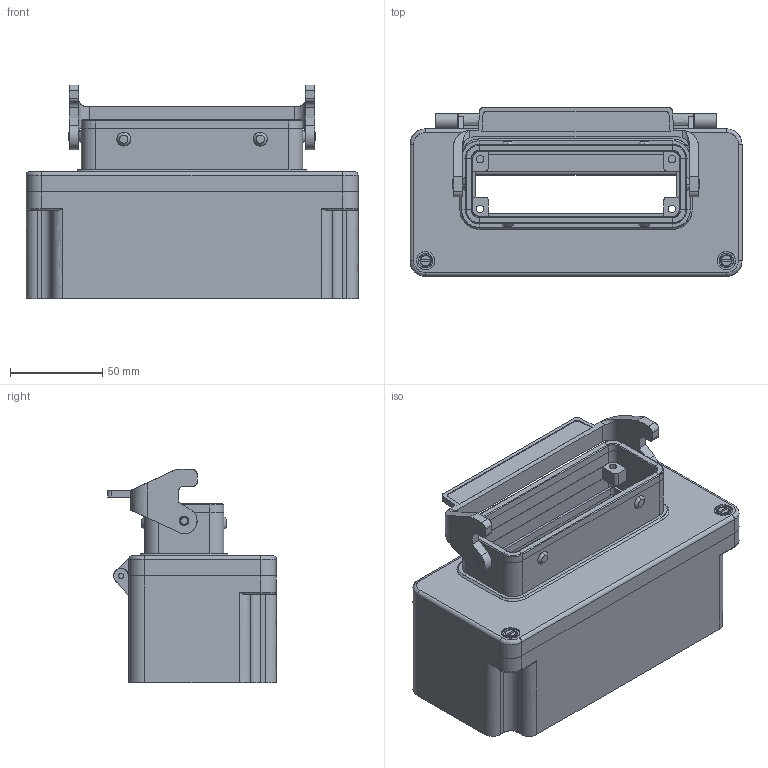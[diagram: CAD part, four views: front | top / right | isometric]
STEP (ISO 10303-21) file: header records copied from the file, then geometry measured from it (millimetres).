
FILE_DESCRIPTION( ( 'STEP AP214' ), '1' );
FILE_NAME( 'C:/Dokumente und Einstellungen/Administrator/Desktop/47 Kabelboxen/G2/gr_2_24e-b/gr_2_24e-b.stp', '2006-08-28T08:25:34', ( ' ' ), ( ' ' ), 'XStep 1.0', 'VISICAD', ' ' );
FILE_SCHEMA( ( 'automotive_design' ) );
Length unit declared in the file: millimetre
Products named in the file (861): 1; 2; 3; 4; 5; 6; 7; 8; 9; 10; 11; 12; 13; 14; 15; 16; 17; 18; 19; 20; 21; 22; 23; 24; 25; 26; 27; 28; 29; 30; 31; 32; 33; 34; 35; 36; 37; 38; 39; 40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
Bounding box: 180 x 91.5 x 115.9 mm (x, y, z)
Surface area: 151794.4 mm2 (no closed solid volume)
Topology: 0 solids, 861 shells, 861 faces, 4342 edges, 4342 vertices
Faces by surface type: plane 393, bspline 241, revolution 199, cylinder 28
Entity records: 96190 total; most frequent: CARTESIAN_POINT 44701, DIRECTION 6159, ORIENTED_EDGE 4342, EDGE_CURVE 4342, VERTEX_POINT 4342, LINE 2388, VECTOR 2388, AXIS2_PLACEMENT_3D 1786
